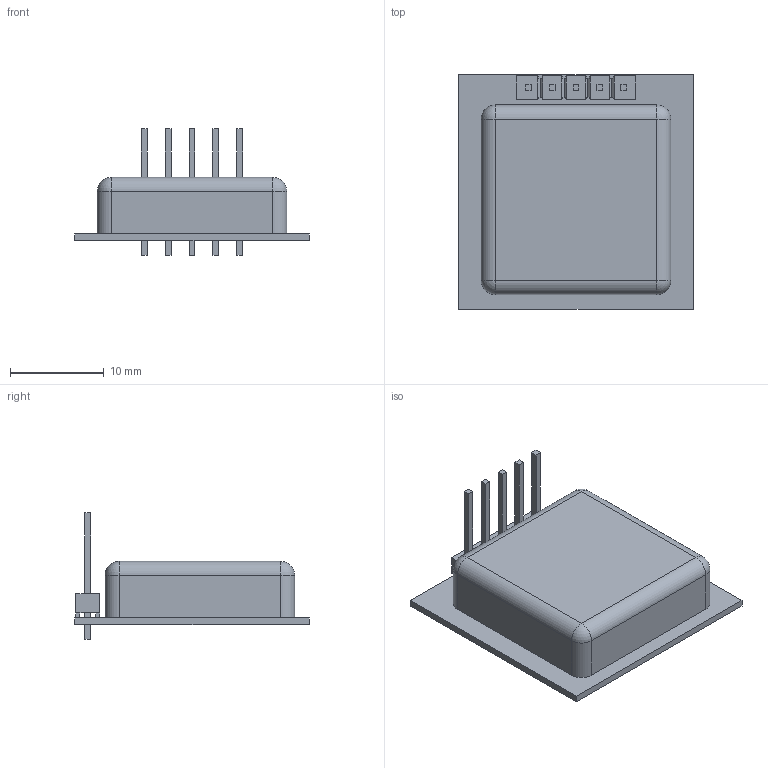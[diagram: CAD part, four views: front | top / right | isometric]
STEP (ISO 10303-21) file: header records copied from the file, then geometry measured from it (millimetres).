
FILE_DESCRIPTION(('FreeCAD Model'),'2;1');
FILE_NAME('C:/Projekte/Homepage/3D Models/K-LC5_3D_model.step', '2022-11-01T10:31:55',('Author'),(''), 'Open CASCADE STEP processor 7.3','FreeCAD','Unknown');
FILE_SCHEMA(('AUTOMOTIVE_DESIGN { 1 0 10303 214 1 1 1 1 }'));
Length unit declared in the file: millimetre
Products named in the file (8): Free-Models; MEC_012A_RGB14737632; X1; MTSW-105-08-T-S-340; _MTSW-105-08-T-S-340_body; _MTSW-105-08-S-340; Board; Open_CASCADE_STEP_translator_6.8_1.1.1
Assembly tree (5 placements, depth 3):
  Free-Models
    MEC_012A_RGB14737632
  X1
    MTSW-105-08-T-S-340
      _MTSW-105-08-T-S-340_body
      _MTSW-105-08-S-340
  Board
    Open_CASCADE_STEP_translator_6.8_1.1.1
Bounding box: 25 x 25 x 13.46 mm (x, y, z)
Volume: 866.6 mm3; surface area: 3305.5 mm2
Topology: 4 solids, 4 shells, 259 faces, 656 edges, 408 vertices
Faces by surface type: plane 235, cylinder 16, sphere 8
Entity records: 18098 total; most frequent: CARTESIAN_POINT 2905, DIRECTION 2491, LINE 1893, VECTOR 1893, ORIENTED_EDGE 1296, PCURVE 1296, DEFINITIONAL_REPRESENTATION 1296, EDGE_CURVE 648
